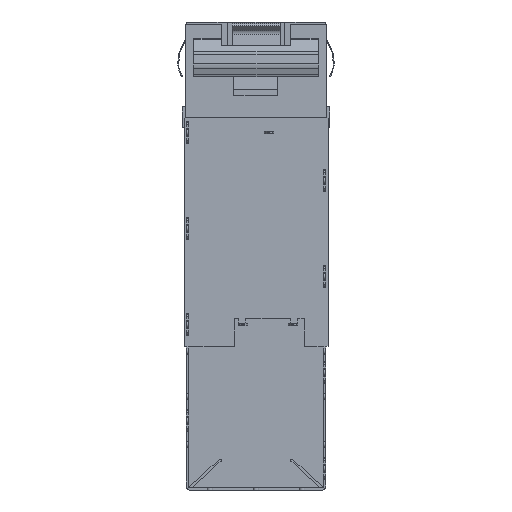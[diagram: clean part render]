
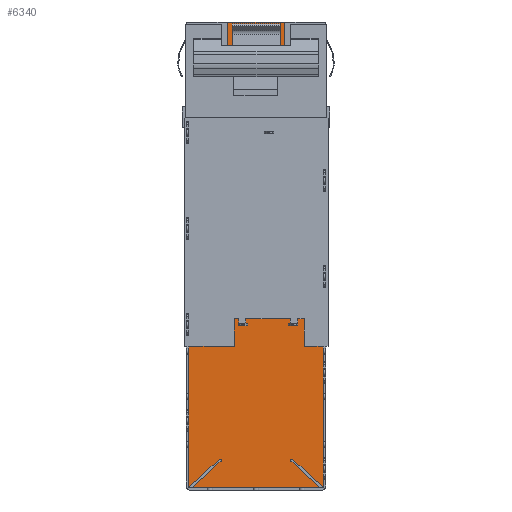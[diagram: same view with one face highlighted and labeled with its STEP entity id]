
A CAD part, front view. The second image highlights one B-rep face of the part: STEP entity #6340.
In plain terms, the highlighted planar face has unit normal (0, -1, 0).
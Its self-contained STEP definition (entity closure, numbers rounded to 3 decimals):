
#97 = VECTOR ( 'NONE', #5603, 1000. ) ;
#662 = DIRECTION ( 'NONE',  ( 0., 0., 1. ) ) ;
#684 = VERTEX_POINT ( 'NONE', #5689 ) ;
#749 = LINE ( 'NONE', #6358, #7850 ) ;
#755 = AXIS2_PLACEMENT_3D ( 'NONE', #2087, #3005, #9460 ) ;
#1118 = ORIENTED_EDGE ( 'NONE', *, *, #7847, .T. ) ;
#2087 = CARTESIAN_POINT ( 'NONE',  ( 7., 9.2, -65.366 ) ) ;
#2200 = FACE_OUTER_BOUND ( 'NONE', #8678, .T. ) ;
#2579 = VERTEX_POINT ( 'NONE', #4911 ) ;
#3005 = DIRECTION ( 'NONE',  ( 0., 1., 0. ) ) ;
#4911 = CARTESIAN_POINT ( 'NONE',  ( -7., 9.2, 0. ) ) ;
#4928 = DIRECTION ( 'NONE',  ( -1., 0., 0. ) ) ;
#5027 = VERTEX_POINT ( 'NONE', #9069 ) ;
#5560 = CARTESIAN_POINT ( 'NONE',  ( -7., 9.2, -48.5 ) ) ;
#5603 = DIRECTION ( 'NONE',  ( -1., 0., 0. ) ) ;
#5689 = CARTESIAN_POINT ( 'NONE',  ( 7., 9.2, -48.5 ) ) ;
#5718 = PLANE ( 'NONE',  #755 ) ;
#6188 = CARTESIAN_POINT ( 'NONE',  ( -7., 9.2, -65.366 ) ) ;
#6340 = ADVANCED_FACE ( 'NONE', ( #2200 ), #5718, .F. ) ;
#6358 = CARTESIAN_POINT ( 'NONE',  ( 7., 9.2, -65.366 ) ) ;
#6482 = VECTOR ( 'NONE', #4928, 1000. ) ;
#6797 = CARTESIAN_POINT ( 'NONE',  ( 7., 9.2, 0. ) ) ;
#7847 = EDGE_CURVE ( 'NONE', #684, #5027, #749, .T. ) ;
#7850 = VECTOR ( 'NONE', #8236, 1000. ) ;
#8236 = DIRECTION ( 'NONE',  ( 0., 0., 1. ) ) ;
#8489 = ORIENTED_EDGE ( 'NONE', *, *, #9494, .T. ) ;
#8678 = EDGE_LOOP ( 'NONE', ( #1118, #8489, #11358, #8828 ) ) ;
#8828 = ORIENTED_EDGE ( 'NONE', *, *, #10465, .F. ) ;
#9069 = CARTESIAN_POINT ( 'NONE',  ( 7., 9.2, 0. ) ) ;
#9243 = LINE ( 'NONE', #6797, #6482 ) ;
#9301 = VERTEX_POINT ( 'NONE', #5560 ) ;
#9383 = LINE ( 'NONE', #6188, #11788 ) ;
#9460 = DIRECTION ( 'NONE',  ( 0., 0., 1. ) ) ;
#9494 = EDGE_CURVE ( 'NONE', #5027, #2579, #9243, .T. ) ;
#9647 = EDGE_CURVE ( 'NONE', #9301, #2579, #9383, .T. ) ;
#9656 = LINE ( 'NONE', #11125, #97 ) ;
#10465 = EDGE_CURVE ( 'NONE', #684, #9301, #9656, .T. ) ;
#11125 = CARTESIAN_POINT ( 'NONE',  ( 7., 9.2, -48.5 ) ) ;
#11358 = ORIENTED_EDGE ( 'NONE', *, *, #9647, .F. ) ;
#11788 = VECTOR ( 'NONE', #662, 1000. ) ;
